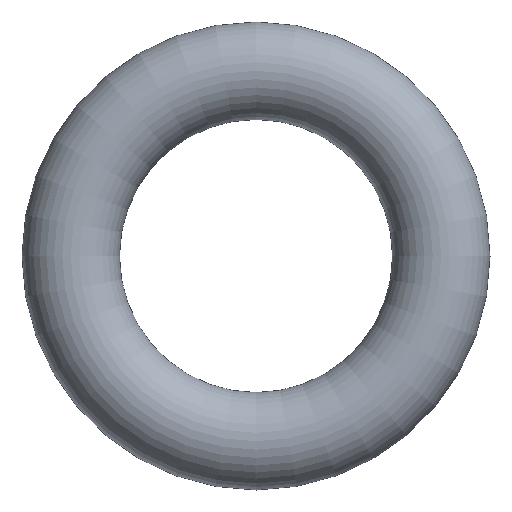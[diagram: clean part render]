
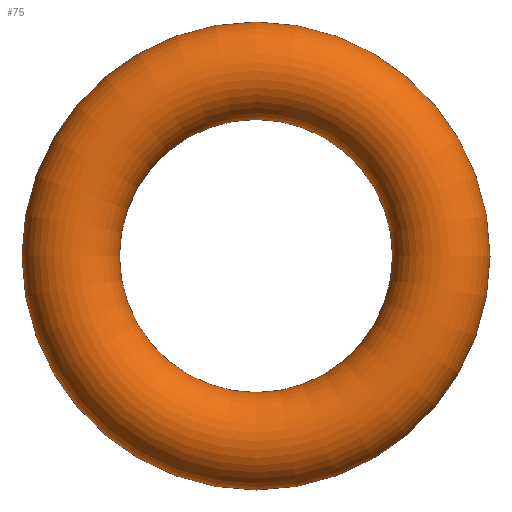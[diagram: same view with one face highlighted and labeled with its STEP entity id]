
A CAD part, front view. The second image highlights one B-rep face of the part: STEP entity #75.
In plain terms, the highlighted toroidal (fillet/blend) face has major radius 4.75 mm and minor radius 1.25 mm.
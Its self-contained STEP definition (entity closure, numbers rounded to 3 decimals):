
#75 = ADVANCED_FACE( '', ( #77 ), #78, .T. );
#77 = FACE_BOUND( '', #79, .T. );
#78 = TOROIDAL_SURFACE( '', #80, 4.75, 1.25 );
#79 = VERTEX_LOOP( '', #81 );
#80 = AXIS2_PLACEMENT_3D( '', #82, #83, #84 );
#81 = VERTEX_POINT( '', #85 );
#82 = CARTESIAN_POINT( '', ( 0., 0., 0. ) );
#83 = DIRECTION( '', ( 0., -1., 0. ) );
#84 = DIRECTION( '', ( 0., 0., -1. ) );
#85 = CARTESIAN_POINT( '', ( 0., 0., -6. ) );
